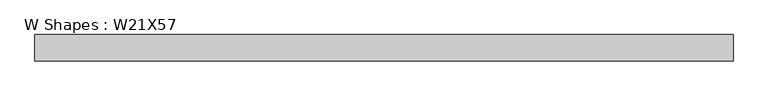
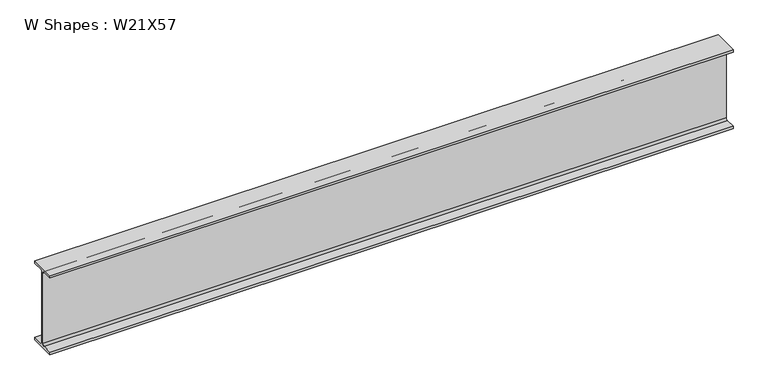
"""IFC4 building model written with IfcOpenShell, lengths in millimetres: beam geometry, W Shapes : W21X57."""

from ifc_helpers import new_model, si_unit, point, frame, frame_2d, origin, place, context, project, spatial, polyline, circle_curve, trimmed, segment, composite_curve, outline, extrude, source, transform, mapped, element, save


def w_shapes_w21x57_78d4a217(model_context):
    return source(origin(), model_context, "Body", "SweptSolid", [
        extrude(outline(composite_curve([segment(polyline([(83.312, -251.46), (83.312, -267.97), (-83.312, -267.97), (-83.312, -251.46), (-17.907, -251.46)]), True, "CONTINUOUS"), segment(trimmed(circle_curve(frame_2d((-17.907, -238.76)), 12.7), [point((-17.907, -251.46))], [point((-5.207, -238.76))], True, "CARTESIAN"), True, "CONTINUOUS"), segment(polyline([(-5.207, -238.76), (-5.207, 238.76)]), True, "CONTINUOUS"), segment(trimmed(circle_curve(frame_2d((-17.907, 238.76)), 12.7), [point((-5.207, 238.76))], [point((-17.907, 251.46))], True, "CARTESIAN"), True, "CONTINUOUS"), segment(polyline([(-17.907, 251.46), (-83.312, 251.46), (-83.312, 267.97), (83.312, 267.97), (83.312, 251.46), (17.907, 251.46)]), True, "CONTINUOUS"), segment(trimmed(circle_curve(frame_2d((17.907, 238.76)), 12.7), [point((17.907, 251.46))], [point((5.207, 238.76))], True, "CARTESIAN"), True, "CONTINUOUS"), segment(polyline([(5.207, 238.76), (5.207, -238.76)]), True, "CONTINUOUS"), segment(trimmed(circle_curve(frame_2d((17.907, -238.76)), 12.7), [point((5.207, -238.76))], [point((17.907, -251.46))], True, "CARTESIAN"), True, "CONTINUOUS"), segment(polyline([(17.907, -251.46), (83.312, -251.46)]), True, "CONTINUOUS")], self_intersect=False)), frame((-2089.8329322, 0.0, 0.0), z_axis=(1.0, 0.0, 0.0), x_axis=(0.0, 1.0, 0.0)), (0.0, 0.0, 1.0), 4381.2829322),
    ])


if __name__ == "__main__":
    model = new_model("IFC4")
    model_context = context("Model", 3, world=origin())
    ifc_project = project(units=[si_unit("LENGTHUNIT", "METRE", prefix="MILLI")], contexts=[model_context])
    site = spatial("IfcSite", under=ifc_project)
    building = spatial("IfcBuilding", under=site)
    placement = place(None, origin())
    w_shapes_w21x57_shape = w_shapes_w21x57_78d4a217(model_context)
    element("IfcBeam", 1, ObjectType="W Shapes : W21X57", at=placement, inside=building, context=model_context, shape_type="MappedRepresentation", body=[
        mapped(w_shapes_w21x57_shape, transform((0.0, 0.0, 0.0), x_axis=(1.0, 0.0, 0.0), y_axis=(0.0, 1.0, 0.0), z_axis=(0.0, 0.0, 1.0))),
    ])
    save(model, "model.ifc")
